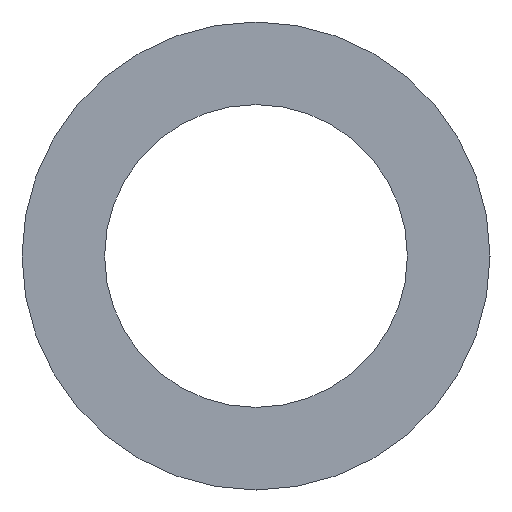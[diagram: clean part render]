
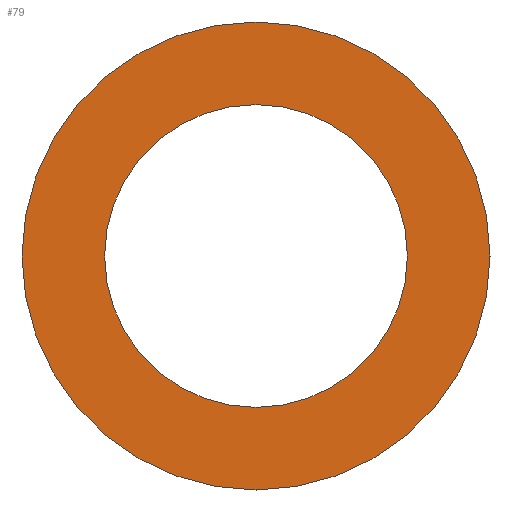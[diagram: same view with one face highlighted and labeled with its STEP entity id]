
A CAD part, front view. The second image highlights one B-rep face of the part: STEP entity #79.
In plain terms, the highlighted planar face has unit normal (0, -1, 0).
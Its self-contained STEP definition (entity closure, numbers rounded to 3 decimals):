
#79 = ADVANCED_FACE ( 'NONE', ( #767, #2735 ), #1893, .F. ) ;
#290 = CIRCLE ( 'NONE', #2856, 42.5 ) ;
#361 = CARTESIAN_POINT ( 'NONE',  ( 0., -19., 42.5 ) ) ;
#371 = CARTESIAN_POINT ( 'NONE',  ( 0., -19., 27.5 ) ) ;
#415 = EDGE_CURVE ( 'NONE', #2574, #3384, #2870, .T. ) ;
#480 = ORIENTED_EDGE ( 'NONE', *, *, #415, .T. ) ;
#546 = CIRCLE ( 'NONE', #923, 27.5 ) ;
#574 = CARTESIAN_POINT ( 'NONE',  ( 0., -19., 0. ) ) ;
#711 = AXIS2_PLACEMENT_3D ( 'NONE', #2934, #3208, #2625 ) ;
#732 = EDGE_CURVE ( 'NONE', #2395, #3693, #546, .T. ) ;
#767 = FACE_BOUND ( 'NONE', #1095, .T. ) ;
#923 = AXIS2_PLACEMENT_3D ( 'NONE', #574, #2889, #1740 ) ;
#1012 = CARTESIAN_POINT ( 'NONE',  ( 0., -19., -42.5 ) ) ;
#1034 = CARTESIAN_POINT ( 'NONE',  ( 0., -19., 0. ) ) ;
#1095 = EDGE_LOOP ( 'NONE', ( #2760, #3323 ) ) ;
#1344 = DIRECTION ( 'NONE',  ( 0., 0., -1. ) ) ;
#1351 = DIRECTION ( 'NONE',  ( 0., 1., 0. ) ) ;
#1359 = EDGE_CURVE ( 'NONE', #3693, #2395, #2452, .T. ) ;
#1729 = EDGE_LOOP ( 'NONE', ( #480, #1962 ) ) ;
#1740 = DIRECTION ( 'NONE',  ( 0., 0., -1. ) ) ;
#1893 = PLANE ( 'NONE',  #2507 ) ;
#1962 = ORIENTED_EDGE ( 'NONE', *, *, #3164, .T. ) ;
#1998 = DIRECTION ( 'NONE',  ( 0., 0., -1. ) ) ;
#2162 = DIRECTION ( 'NONE',  ( 0., -1., 0. ) ) ;
#2395 = VERTEX_POINT ( 'NONE', #371 ) ;
#2452 = CIRCLE ( 'NONE', #3157, 27.5 ) ;
#2474 = CARTESIAN_POINT ( 'NONE',  ( 0., -19., 27.5 ) ) ;
#2507 = AXIS2_PLACEMENT_3D ( 'NONE', #2474, #1351, #3360 ) ;
#2574 = VERTEX_POINT ( 'NONE', #1012 ) ;
#2582 = CARTESIAN_POINT ( 'NONE',  ( 0., -19., 0. ) ) ;
#2625 = DIRECTION ( 'NONE',  ( 0., 0., -1. ) ) ;
#2735 = FACE_OUTER_BOUND ( 'NONE', #1729, .T. ) ;
#2760 = ORIENTED_EDGE ( 'NONE', *, *, #1359, .F. ) ;
#2856 = AXIS2_PLACEMENT_3D ( 'NONE', #1034, #2162, #1344 ) ;
#2870 = CIRCLE ( 'NONE', #711, 42.5 ) ;
#2889 = DIRECTION ( 'NONE',  ( 0., -1., 0. ) ) ;
#2934 = CARTESIAN_POINT ( 'NONE',  ( 0., -19., 0. ) ) ;
#3157 = AXIS2_PLACEMENT_3D ( 'NONE', #2582, #3468, #1998 ) ;
#3164 = EDGE_CURVE ( 'NONE', #3384, #2574, #290, .T. ) ;
#3208 = DIRECTION ( 'NONE',  ( 0., -1., 0. ) ) ;
#3323 = ORIENTED_EDGE ( 'NONE', *, *, #732, .F. ) ;
#3350 = CARTESIAN_POINT ( 'NONE',  ( 0., -19., -27.5 ) ) ;
#3360 = DIRECTION ( 'NONE',  ( 0., 0., 1. ) ) ;
#3384 = VERTEX_POINT ( 'NONE', #361 ) ;
#3468 = DIRECTION ( 'NONE',  ( 0., -1., 0. ) ) ;
#3693 = VERTEX_POINT ( 'NONE', #3350 ) ;
